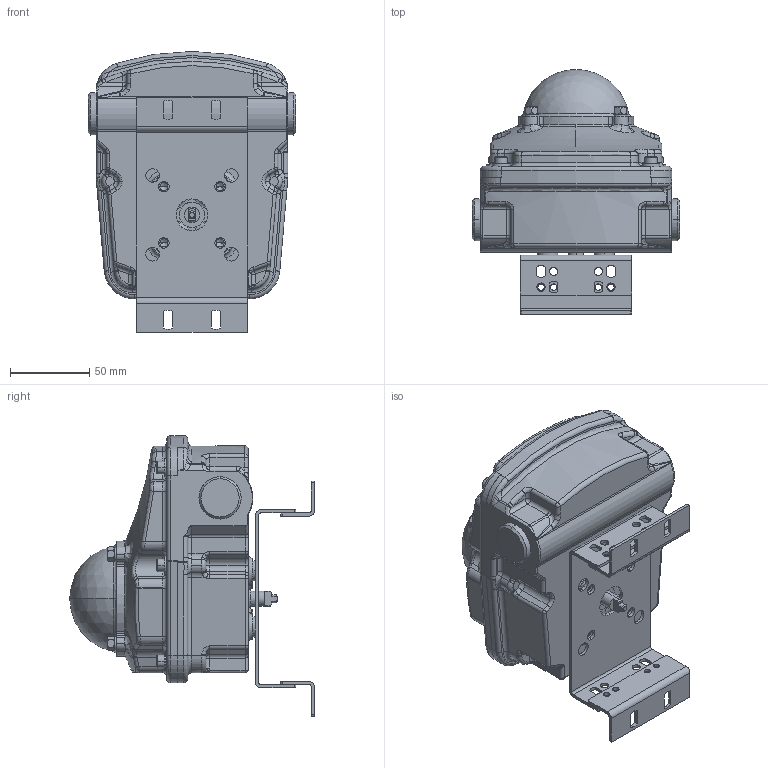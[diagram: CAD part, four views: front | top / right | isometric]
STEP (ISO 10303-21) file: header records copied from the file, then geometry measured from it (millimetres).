
FILE_DESCRIPTION (( 'STEP AP214' ), '1' );
FILE_NAME ('S5B_with_AdjustableBracket_30X130.STEP', '2018-10-15T13:12:14', ( '' ), ( '' ), 'SwSTEP 2.0', 'SolidWorks 2018', '' );
FILE_SCHEMA (( 'AUTOMOTIVE_DESIGN' ));
Length unit declared in the file: millimetre
Products named in the file (3): S5B_with_AdjustableBracket_30X130; S5B Al (EC)SIMPLE-ForCOMP2; Adjustable Bracket 30X130Simple
Assembly tree (2 placements, depth 2):
  S5B_with_AdjustableBracket_30X130
    Adjustable Bracket 30X130Simple
    S5B Al (EC)SIMPLE-ForCOMP2
Bounding box: 130.81 x 153.97 x 176.72 mm (x, y, z)
Volume: 1200587.6 mm3; surface area: 107767.3 mm2
Topology: 4 solids, 6 shells, 980 faces, 2418 edges, 1442 vertices
Faces by surface type: cylinder 337, plane 193, bspline 178, torus 151, cone 95, sphere 26
Entity records: 46065 total; most frequent: CARTESIAN_POINT 14668, ORIENTED_EDGE 4760, DIRECTION 4653, EDGE_CURVE 2380, AXIS2_PLACEMENT_3D 1973, VERTEX_POINT 1442, CIRCLE 1166, EDGE_LOOP 1088
